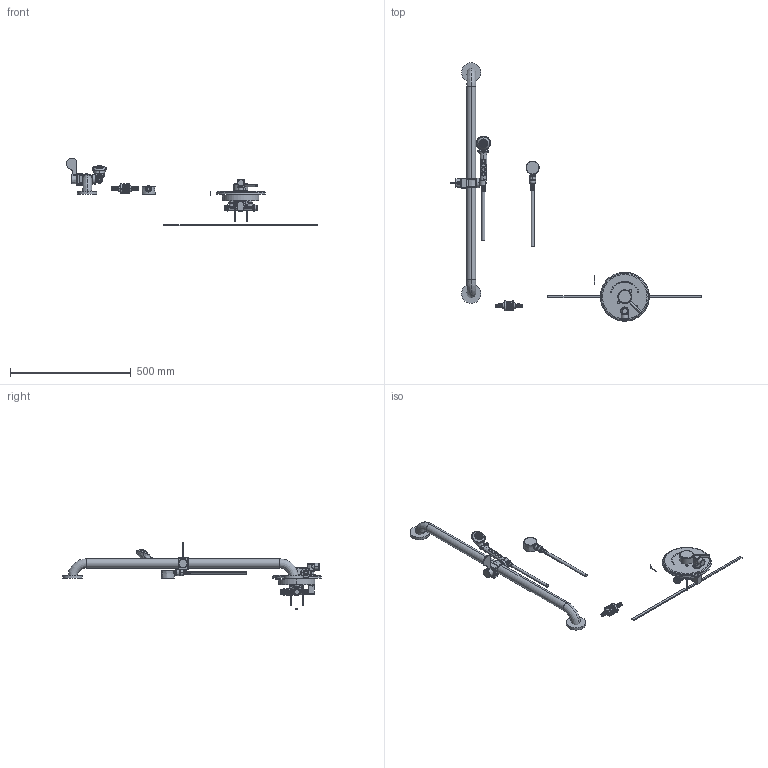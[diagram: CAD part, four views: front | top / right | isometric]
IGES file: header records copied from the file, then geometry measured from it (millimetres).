
Start section:  PTC IGES file: sh-pb4-00-055_REV112524.igs
Global section: file name: sh-pb4-00-055_REV112524.igs; native system: Creo Parametric by PTC Inc.; preprocessor: 2024253; author: rodjo; organization: Unknown; date: 20241125.091549; units: inch
Bounding box: 1037.97 x 1068.85 x 280.64 mm (x, y, z)
Surface area: 463563.4 mm2 (no closed solid volume)
Topology: 0 solids, 0 shells, 1086 faces, 6843 edges, 6837 vertices
Faces by surface type: revolution 791, bspline 295
